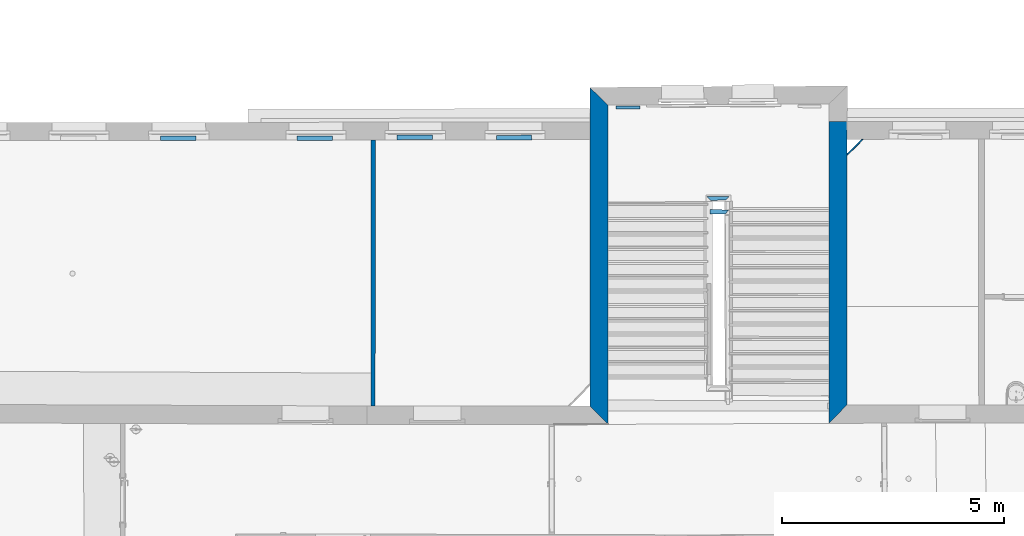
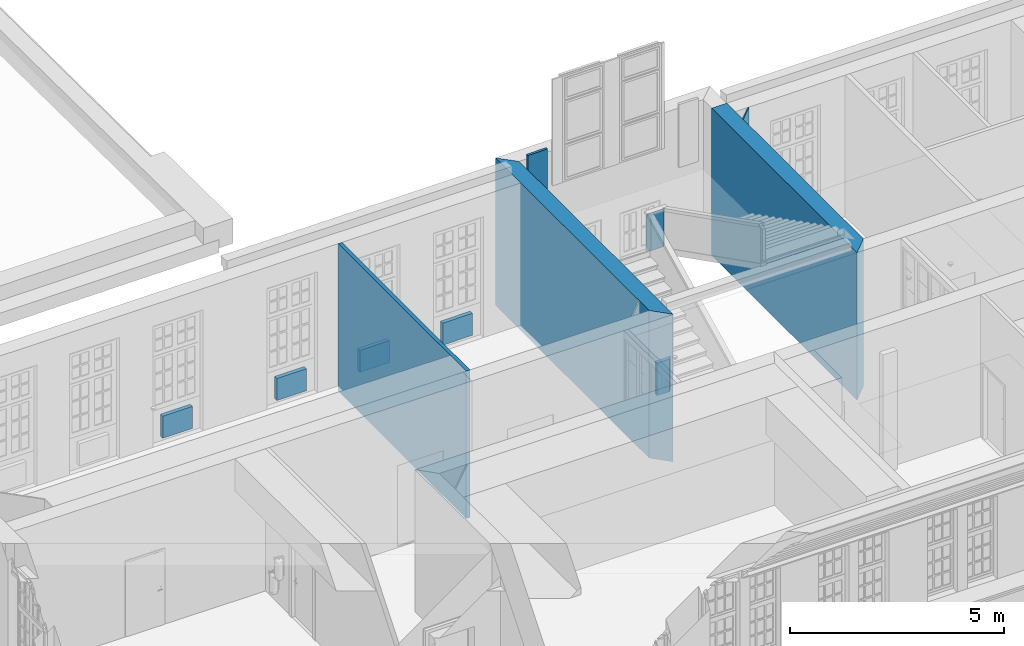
# One storey, part 18 of 90: 11 walls.
"""IFC2X3 building model written with IfcOpenShell, lengths in metres."""

from ifc_helpers import new_model, entity, si_unit, converted_unit, derived_unit, money_unit, direction, frame, origin_with_axes, place, context, subcontext, project, spatial, polyline, outline, extrude, material, layer, layer_set, layer_usage, type_object, element, save


model = new_model("IFC2X3")

# Units and contexts
model_context = context("Model", 3, precision=1e-05, world=origin_with_axes(), true_north=direction((0.0, 1.0)))
body_context = subcontext(model_context, "Body", "Model", "MODEL_VIEW")
ifc_project = project(units=[si_unit("LENGTHUNIT", "METRE"), si_unit("AREAUNIT", "SQUARE_METRE"), si_unit("VOLUMEUNIT", "CUBIC_METRE"), converted_unit("PLANEANGLEUNIT", "DEGREE", entity("IfcPlaneAngleMeasure", 0.0174532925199), si_unit("PLANEANGLEUNIT", "RADIAN"), dimensions=[0, 0, 0, 0, 0, 0, 0]), money_unit("EUR"), converted_unit("TIMEUNIT", "Year", entity("IfcTimeMeasure", 31556926.0), si_unit("TIMEUNIT", "SECOND"), dimensions=[0, 0, 1, 0, 0, 0, 0]), si_unit("MASSUNIT", "GRAM", prefix="KILO"), si_unit("THERMODYNAMICTEMPERATUREUNIT", "DEGREE_CELSIUS"), si_unit("LUMINOUSINTENSITYUNIT", "LUMEN"), si_unit("ENERGYUNIT", "JOULE", prefix="MEGA"), derived_unit("THERMALCONDUCTANCEUNIT", [(si_unit("POWERUNIT", "WATT"), 1), (si_unit("LENGTHUNIT", "METRE"), -1), (si_unit("THERMODYNAMICTEMPERATUREUNIT", "KELVIN"), -1)]), derived_unit("SPECIFICHEATCAPACITYUNIT", [(si_unit("ENERGYUNIT", "JOULE"), 1), (si_unit("MASSUNIT", "GRAM", prefix="KILO"), -1), (si_unit("THERMODYNAMICTEMPERATUREUNIT", "KELVIN"), -1)]), derived_unit("MASSDENSITYUNIT", [(si_unit("MASSUNIT", "GRAM", prefix="KILO"), 1), (si_unit("VOLUMEUNIT", "CUBIC_METRE"), -1)])], contexts=[model_context])

# Site, building, storey
site_placement = place(None, origin_with_axes())
site = spatial("IfcSite", under=ifc_project, at=site_placement, Name="Gelände", CompositionType="ELEMENT")
building_placement = place(site_placement, origin_with_axes())
building = spatial("IfcBuilding", under=site, at=building_placement, Name="Gebäude", CompositionType="ELEMENT")
storey_placement = place(building_placement, frame((0.0, 0.0, 3.7), z_axis=(0.0, 0.0, 1.0), x_axis=(1.0, 0.0, 0.0)))
storey = spatial("IfcBuildingStorey", under=building, at=storey_placement, Name="1.OBERGESCHOSS", CompositionType="ELEMENT", Elevation=3.7)

# Walls
ifc_material_1 = material(Name="05_ALLGEMEIN - TRAGENDE BAUTEILE")
ifc_layer_1 = layer(ifc_material_1, 0.1, ventilated="UNKNOWN")
ifc_layer_set_1 = layer_set([ifc_layer_1], Name="05_ALLGEMEIN - TRAGENDE BAUTEILE 0.1")
ifc_layer_usage_1 = layer_usage(ifc_layer_set_1, "AXIS2", "NEGATIVE", 0.1)
wall_type_1 = type_object("IfcWallType", Name="05_ALLGEMEIN - TRAGENDE BAUTEILE 100", PredefinedType="ELEMENTEDWALL")
wall_1_placement = place(storey_placement, frame((-7.54482319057, 23.9801289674, -1.89), z_axis=(0.0, 0.0, 1.0), x_axis=(0.999933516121, -0.0115309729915, 0.0)))
element("IfcWallStandardCase", 1, at=wall_1_placement, inside=storey, type_object=wall_type_1, material=ifc_layer_usage_1, Name="Wand-039", ObjectType="ELEMENTEDWALL", context=body_context, shape_type="SweptSolid", body=[
    extrude(outline(polyline([(0.0, 0.0), (0.337949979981, 0.0), (0.418184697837, 0.1), (0.0, 0.1), (0.0, 0.0)])), origin_with_axes(), (0.0, 0.0, 1.0), 0.927786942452),
])
ifc_material_2 = material(Name="43_Gipskarton")
ifc_layer_2 = layer(ifc_material_2, 0.03, ventilated="UNKNOWN")
ifc_layer_set_2 = layer_set([ifc_layer_2], Name="43_Gipskarton 0.03")
ifc_layer_usage_2 = layer_usage(ifc_layer_set_2, "AXIS2", "NEGATIVE", 0.03)
wall_type_2 = type_object("IfcWallType", Name="43_Gipskarton 30", PredefinedType="ELEMENTEDWALL")
wall_2_placement = place(storey_placement, frame((-4.46268243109, 25.2997570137, -0.1), z_axis=(0.0, 0.0, 1.0), x_axis=(0.709314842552, 0.704891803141, 0.0)))
element("IfcWallStandardCase", 2, at=wall_2_placement, inside=storey, type_object=wall_type_2, material=ifc_layer_usage_2, Name="Wand-041", ObjectType="ELEMENTEDWALL", context=body_context, shape_type="SweptSolid", body=[
    extrude(outline(polyline([(0.0, 0.0), (0.513495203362, 0.0), (0.483222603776, 0.03), (0.0298392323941, 0.03), (0.0, 0.0)])), origin_with_axes(), (0.0, 0.0, 1.0), 4.2),
])
ifc_material_3 = material(Name="01_ALLGEMEIN - BAUTEIL")
ifc_layer_3 = layer(ifc_material_3, 0.105, ventilated="UNKNOWN")
ifc_layer_set_3 = layer_set([ifc_layer_3], Name="01_ALLGEMEIN - BAUTEIL 0.105")
ifc_layer_usage_3 = layer_usage(ifc_layer_set_3, "AXIS2", "NEGATIVE", 0.105)
wall_type_3 = type_object("IfcWallType", Name="01_ALLGEMEIN - BAUTEIL 105", PredefinedType="ELEMENTEDWALL")
wall_3_placement = place(storey_placement, frame((-14.5812477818, 25.6504419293, 0.222143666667), z_axis=(0.0, 0.0, 1.0), x_axis=(0.999976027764, 0.00692415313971, 0.0)))
element("IfcWallStandardCase", 3, at=wall_3_placement, inside=storey, type_object=wall_type_3, material=ifc_layer_usage_3, Name="Wand-035", ObjectType="ELEMENTEDWALL", context=body_context, shape_type="SweptSolid", body=[
    extrude(outline(polyline([(0.0, 0.0), (0.793449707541, 0.0), (0.793449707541, 0.105), (0.0, 0.105), (0.0, 0.0)])), origin_with_axes(), (0.0, 0.0, 1.0), 0.626381),
])
ifc_layer_usage_4 = layer_usage(ifc_layer_set_3, "AXIS2", "NEGATIVE", 0.105)
wall_4_placement = place(storey_placement, frame((-12.3497738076, 25.643543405, 0.222143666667), z_axis=(0.0, 0.0, 1.0), x_axis=(0.999976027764, 0.00692415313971, 0.0)))
element("IfcWallStandardCase", 4, at=wall_4_placement, inside=storey, type_object=wall_type_3, material=ifc_layer_usage_4, Name="Wand-035", ObjectType="ELEMENTEDWALL", context=body_context, shape_type="SweptSolid", body=[
    extrude(outline(polyline([(0.0, 0.0), (0.793449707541, 0.0), (0.793449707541, 0.105), (0.0, 0.105), (0.0, 0.0)])), origin_with_axes(), (0.0, 0.0, 1.0), 0.626381),
])
ifc_layer_usage_5 = layer_usage(ifc_layer_set_3, "AXIS2", "NEGATIVE", 0.105)
wall_5_placement = place(storey_placement, frame((-16.8336155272, 25.6296150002, 0.222143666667), z_axis=(0.0, 0.0, 1.0), x_axis=(0.999998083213, 0.00195795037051, 0.0)))
element("IfcWallStandardCase", 5, at=wall_5_placement, inside=storey, type_object=wall_type_3, material=ifc_layer_usage_5, Name="Wand-035", ObjectType="ELEMENTEDWALL", context=body_context, shape_type="SweptSolid", body=[
    extrude(outline(polyline([(0.0, 0.0), (0.799991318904, 0.0), (0.799991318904, 0.105), (0.0, 0.105), (0.0, 0.0)])), origin_with_axes(), (0.0, 0.0, 1.0), 0.626381),
])
ifc_layer_usage_6 = layer_usage(ifc_layer_set_3, "AXIS2", "NEGATIVE", 0.105)
wall_6_placement = place(storey_placement, frame((-19.9026987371, 25.6305483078, 0.222143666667), z_axis=(0.0, 0.0, 1.0), x_axis=(0.999998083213, 0.00195795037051, 0.0)))
element("IfcWallStandardCase", 6, at=wall_6_placement, inside=storey, type_object=wall_type_3, material=ifc_layer_usage_6, Name="Wand-035", ObjectType="ELEMENTEDWALL", context=body_context, shape_type="SweptSolid", body=[
    extrude(outline(polyline([(0.0, 0.0), (0.799991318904, 0.0), (0.799991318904, 0.105), (0.0, 0.105), (0.0, 0.0)])), origin_with_axes(), (0.0, 0.0, 1.0), 0.626381),
])
ifc_layer_4 = layer(ifc_material_2, 0.1, ventilated="UNKNOWN")
ifc_layer_set_4 = layer_set([ifc_layer_4], Name="43_Gipskarton 0.1")
ifc_layer_usage_7 = layer_usage(ifc_layer_set_4, "AXIS2", "NEGATIVE", 0.1)
wall_type_4 = type_object("IfcWallType", Name="43_Gipskarton 100", PredefinedType="ELEMENTEDWALL")
wall_7_placement = place(storey_placement, frame((-15.170514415, 26.0462684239, -0.1), z_axis=(0.0, 0.0, 1.0), x_axis=(-0.000986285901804, -0.99999951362, 0.0)))
element("IfcWallStandardCase", 7, at=wall_7_placement, inside=storey, type_object=wall_type_4, material=ifc_layer_usage_7, Name="Wand-038", ObjectType="ELEMENTEDWALL", context=body_context, shape_type="SweptSolid", body=[
    extrude(outline(polyline([(0.40000113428, 0.0), (6.38268806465, 0.0), (6.38255787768, 0.1), (0.399762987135, 0.1), (0.40000113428, 0.0)])), origin_with_axes(), (0.0, 0.0, 1.0), 4.2),
])
ifc_layer_5 = layer(ifc_material_1, 0.41, ventilated="UNKNOWN")
ifc_layer_set_5 = layer_set([ifc_layer_5], Name="05_ALLGEMEIN - TRAGENDE BAUTEILE 0.41")
ifc_layer_usage_8 = layer_usage(ifc_layer_set_5, "AXIS2", "NEGATIVE", 0.41)
wall_type_5 = type_object("IfcWallType", Name="05_ALLGEMEIN - TRAGENDE BAUTEILE 410", PredefinedType="ELEMENTEDWALL")
wall_8_placement = place(storey_placement, frame((-4.46533827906, 19.2762494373, -0.1), z_axis=(0.0, 0.0, 1.0), x_axis=(0.000440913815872, 0.999999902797, 0.0)))
element("IfcWallStandardCase", 8, at=wall_8_placement, inside=storey, type_object=wall_type_5, material=ifc_layer_usage_8, Name="Wand-038", ObjectType="ELEMENTEDWALL", context=body_context, shape_type="SweptSolid", body=[
    extrude(outline(polyline([(0.414615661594, 0.0), (6.78495948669, 0.0), (6.78495948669, 0.41), (-0.000300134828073, 0.41), (0.414615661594, 0.0)])), origin_with_axes(), (0.0, 0.0, 1.0), 4.2),
])
ifc_layer_usage_9 = layer_usage(ifc_layer_set_5, "AXIS2", "NEGATIVE", 0.41)
wall_9_placement = place(storey_placement, frame((-9.84147958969, 19.2506516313, -0.1), z_axis=(0.0, 0.0, 1.0), x_axis=(-9.41336570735e-05, 0.999999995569, 0.0)))
element("IfcWallStandardCase", 9, at=wall_9_placement, inside=storey, type_object=wall_type_5, material=ifc_layer_usage_9, Name="Wand-038", ObjectType="ELEMENTEDWALL", context=body_context, shape_type="SweptSolid", body=[
    extrude(outline(polyline([(0.0, 0.0), (7.17983203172, 0.0), (7.57769420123, 0.41), (0.414524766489, 0.41), (0.0, 0.0)])), origin_with_axes(), (0.0, 0.0, 1.0), 4.2),
])
ifc_layer_6 = layer(ifc_material_1, 0.0820226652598, ventilated="UNKNOWN")
ifc_layer_set_6 = layer_set([ifc_layer_6], Name="05_ALLGEMEIN - TRAGENDE BAUTEILE 0.0820227")
ifc_layer_usage_10 = layer_usage(ifc_layer_set_6, "AXIS2", "NEGATIVE", 0.0820226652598)
wall_type_6 = type_object("IfcWallType", Name="05_ALLGEMEIN - TRAGENDE BAUTEILE 82", PredefinedType="ELEMENTEDWALL")
wall_10_placement = place(storey_placement, frame((-7.61523238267, 24.2884240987, 2.0400000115), z_axis=(0.0, 0.0, 1.0), x_axis=(0.999953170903, 0.00967760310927, 0.0)))
element("IfcWallStandardCase", 10, at=wall_10_placement, inside=storey, type_object=wall_type_6, material=ifc_layer_usage_10, Name="Wand-039", ObjectType="ELEMENTEDWALL", context=body_context, shape_type="SweptSolid", body=[
    extrude(outline(polyline([(0.0820248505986, 0.0), (0.422056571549, 0.0), (0.504758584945, 0.0820226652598), (0.000598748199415, 0.0820226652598), (0.0820248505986, 0.0)])), origin_with_axes(), (0.0, 0.0, 1.0), 1.02252064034),
])
ifc_layer_7 = layer(ifc_material_3, 0.065, ventilated="UNKNOWN")
ifc_layer_set_7 = layer_set([ifc_layer_7], Name="01_ALLGEMEIN - BAUTEIL 0.065")
ifc_layer_usage_11 = layer_usage(ifc_layer_set_7, "AXIS2", "NEGATIVE", 0.0)
wall_type_7 = type_object("IfcWallType", Name="01_ALLGEMEIN - BAUTEIL 65", PredefinedType="ELEMENTEDWALL")
wall_11_placement = place(storey_placement, frame((-9.12565285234, 26.3471280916, 2.45985666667), z_axis=(0.0, 0.0, 1.0), x_axis=(-0.999977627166, -0.00668918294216, 0.0)))
element("IfcWallStandardCase", 11, at=wall_11_placement, inside=storey, type_object=wall_type_7, material=ifc_layer_usage_11, Name="Wand-037", ObjectType="ELEMENTEDWALL", context=body_context, shape_type="SweptSolid", body=[
    extrude(outline(polyline([(0.0, -0.065), (0.531279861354, -0.065), (0.531279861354, 0.0), (0.0, 0.0), (0.0, -0.065)])), origin_with_axes(), (0.0, 0.0, 1.0), 1.794834),
])

save(model, "model.ifc")
